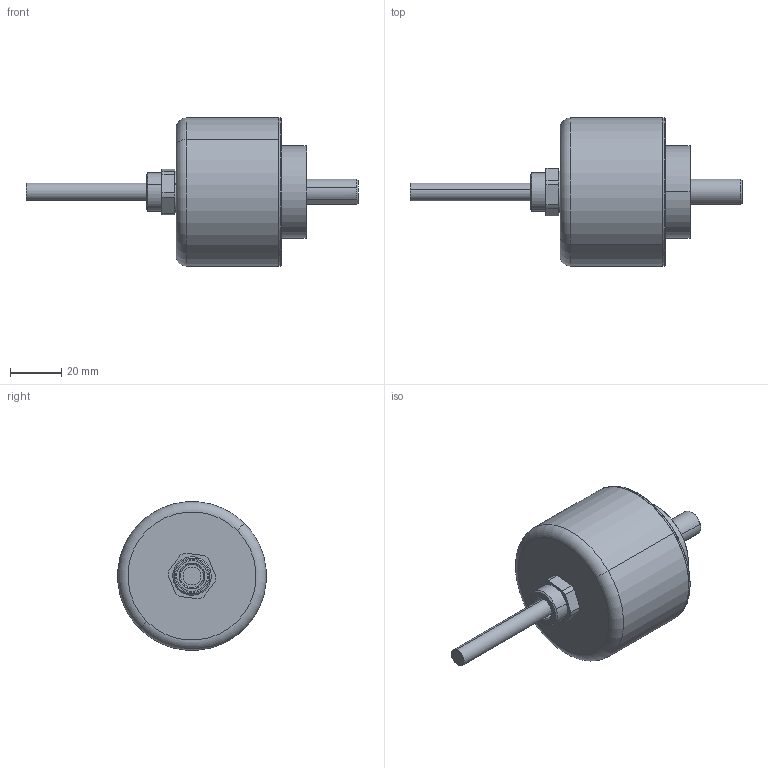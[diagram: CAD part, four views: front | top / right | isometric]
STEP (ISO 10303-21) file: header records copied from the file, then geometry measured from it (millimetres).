
FILE_DESCRIPTION (( 'STEP AP203' ), '1' );
FILE_NAME ('8.5804.12X1.XXXX.STEP', '2013-11-15T14:21:53', ( 'HeirlerN' ), ( 'Microsoft' ), 'SwSTEP 2.0', 'SolidWorks 2013', '' );
FILE_SCHEMA (( 'CONFIG_CONTROL_DESIGN' ));
Length unit declared in the file: millimetre
Products named in the file (1): 8.5804.12X1.XXXX
Bounding box: 129.45 x 58 x 58 mm (x, y, z)
Volume: 53837.5 mm3; surface area: 41346.7 mm2
Topology: 8 solids, 8 shells, 238 faces, 579 edges, 351 vertices
Faces by surface type: cylinder 89, plane 50, cone 49, torus 30, sphere 20
Entity records: 7255 total; most frequent: CARTESIAN_POINT 1741, DIRECTION 1254, ORIENTED_EDGE 1030, AXIS2_PLACEMENT_3D 542, EDGE_CURVE 515, VERTEX_POINT 321, CIRCLE 303, EDGE_LOOP 298
